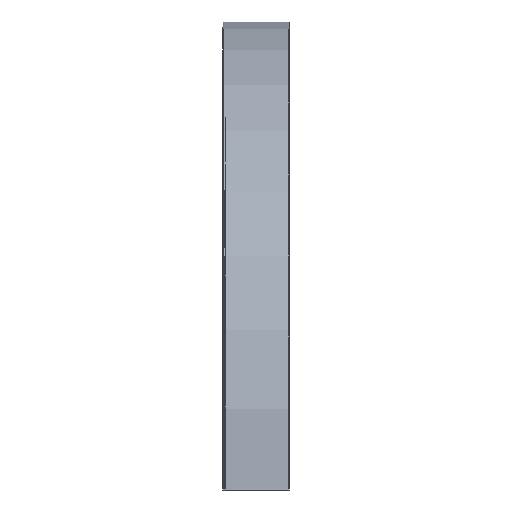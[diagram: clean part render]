
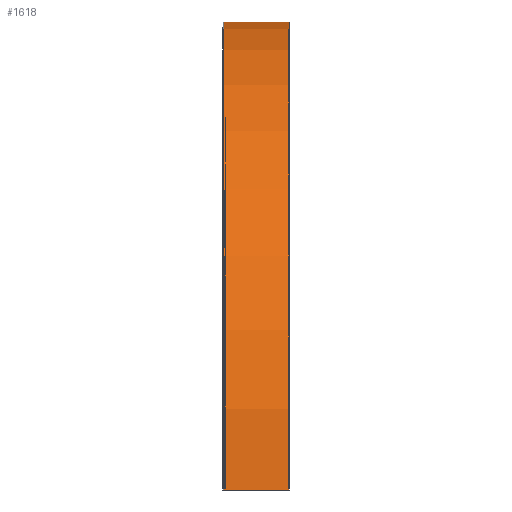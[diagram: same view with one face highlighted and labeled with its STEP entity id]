
A CAD part, left-side view. The second image highlights one B-rep face of the part: STEP entity #1618.
In plain terms, the highlighted cylindrical face has radius 567.252 mm (diameter 1134.5 mm), a partial arc.
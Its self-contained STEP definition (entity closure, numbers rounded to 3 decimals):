
#119 = CARTESIAN_POINT ( 'NONE',  ( 543.752, 79.5, 567.252 ) ) ;
#185 = EDGE_CURVE ( 'NONE', #1556, #1689, #1593, .T. ) ;
#226 = FACE_OUTER_BOUND ( 'NONE', #2152, .T. ) ;
#288 = EDGE_CURVE ( 'NONE', #1673, #1689, #1617, .T. ) ;
#430 = EDGE_CURVE ( 'NONE', #1354, #1556, #1963, .T. ) ;
#476 = DIRECTION ( 'NONE',  ( 0., 1., 0. ) ) ;
#513 = ORIENTED_EDGE ( 'NONE', *, *, #288, .F. ) ;
#610 = CYLINDRICAL_SURFACE ( 'NONE', #1939, 567.252 ) ;
#738 = AXIS2_PLACEMENT_3D ( 'NONE', #2108, #1888, #2288 ) ;
#838 = CARTESIAN_POINT ( 'NONE',  ( 543.752, 0., 567.252 ) ) ;
#899 = CARTESIAN_POINT ( 'NONE',  ( 543.752, 0.5, 567.252 ) ) ;
#916 = CARTESIAN_POINT ( 'NONE',  ( 543.752, 0.5, 0. ) ) ;
#980 = ORIENTED_EDGE ( 'NONE', *, *, #185, .T. ) ;
#994 = CARTESIAN_POINT ( 'NONE',  ( -23.5, 0.5, 0. ) ) ;
#1047 = DIRECTION ( 'NONE',  ( 0., 1., 0. ) ) ;
#1083 = ORIENTED_EDGE ( 'NONE', *, *, #430, .T. ) ;
#1113 = DIRECTION ( 'NONE',  ( 0., 1., 0. ) ) ;
#1253 = ORIENTED_EDGE ( 'NONE', *, *, #2138, .T. ) ;
#1312 = DIRECTION ( 'NONE',  ( -1., 0., 0. ) ) ;
#1354 = VERTEX_POINT ( 'NONE', #994 ) ;
#1483 = VECTOR ( 'NONE', #1695, 1000. ) ;
#1556 = VERTEX_POINT ( 'NONE', #899 ) ;
#1593 = LINE ( 'NONE', #838, #1687 ) ;
#1617 = CIRCLE ( 'NONE', #738, 567.252 ) ;
#1618 = ADVANCED_FACE ( 'NONE', ( #226 ), #610, .T. ) ;
#1631 = LINE ( 'NONE', #2103, #1483 ) ;
#1673 = VERTEX_POINT ( 'NONE', #1721 ) ;
#1684 = CARTESIAN_POINT ( 'NONE',  ( 543.752, 0., 0. ) ) ;
#1687 = VECTOR ( 'NONE', #1047, 1000. ) ;
#1689 = VERTEX_POINT ( 'NONE', #119 ) ;
#1695 = DIRECTION ( 'NONE',  ( 0., -1., 0. ) ) ;
#1721 = CARTESIAN_POINT ( 'NONE',  ( -23.5, 79.5, 0. ) ) ;
#1888 = DIRECTION ( 'NONE',  ( 0., 1., 0. ) ) ;
#1939 = AXIS2_PLACEMENT_3D ( 'NONE', #1684, #476, #2286 ) ;
#1961 = AXIS2_PLACEMENT_3D ( 'NONE', #916, #1113, #1312 ) ;
#1963 = CIRCLE ( 'NONE', #1961, 567.252 ) ;
#2103 = CARTESIAN_POINT ( 'NONE',  ( -23.5, 79.5, 0. ) ) ;
#2108 = CARTESIAN_POINT ( 'NONE',  ( 543.752, 79.5, 0. ) ) ;
#2138 = EDGE_CURVE ( 'NONE', #1673, #1354, #1631, .T. ) ;
#2152 = EDGE_LOOP ( 'NONE', ( #1083, #980, #513, #1253 ) ) ;
#2286 = DIRECTION ( 'NONE',  ( 0., 0., 1. ) ) ;
#2288 = DIRECTION ( 'NONE',  ( -1., 0., 0. ) ) ;
